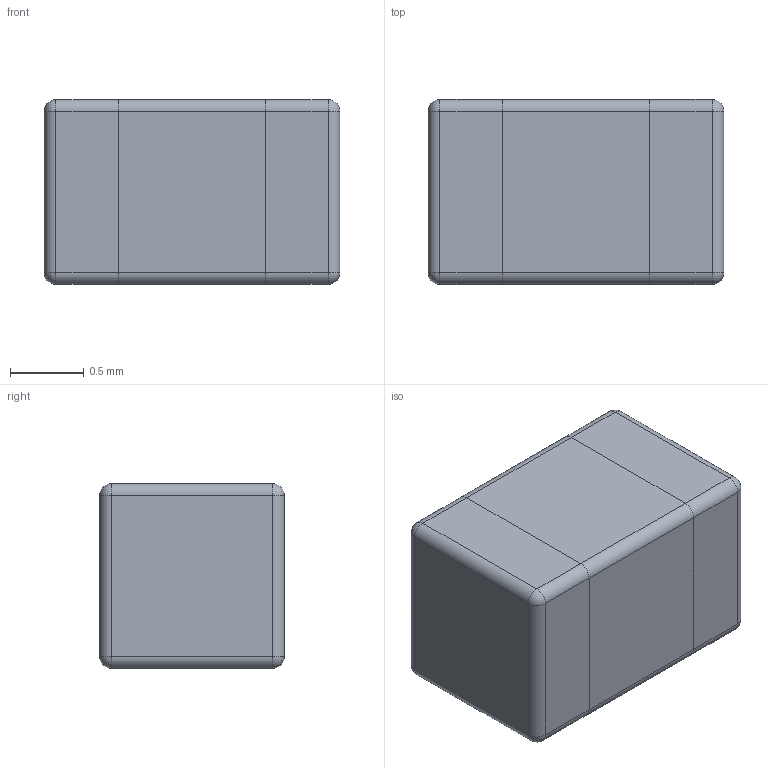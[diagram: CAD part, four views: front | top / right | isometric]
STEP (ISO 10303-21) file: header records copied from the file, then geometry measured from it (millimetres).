
FILE_DESCRIPTION(('FreeCAD Model'),'2;1');
FILE_NAME('Open CASCADE Shape Model','2022-02-08T11:01:13',(''),(''), 'Open CASCADE STEP processor 7.5','FreeCAD','Unknown');
FILE_SCHEMA(('AUTOMOTIVE_DESIGN { 1 0 10303 214 1 1 1 1 }'));
Length unit declared in the file: millimetre
Products named in the file (1): Fillet
Bounding box: 2 x 1.25 x 1.25 mm (x, y, z)
Volume: 3.1 mm3; surface area: 12.5 mm2
Topology: 1 solids, 1 shells, 42 faces, 88 edges, 40 vertices
Faces by surface type: cylinder 20, plane 14, sphere 8
Entity records: 2326 total; most frequent: CARTESIAN_POINT 371, DIRECTION 310, ORIENTED_EDGE 160, LINE 160, VECTOR 160, PCURVE 160, DEFINITIONAL_REPRESENTATION 160, EDGE_CURVE 80
